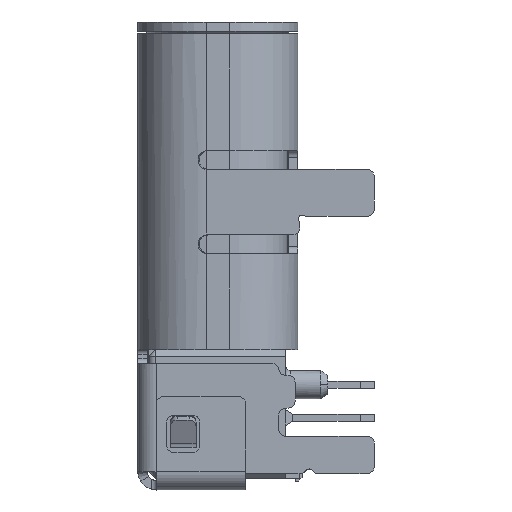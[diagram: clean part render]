
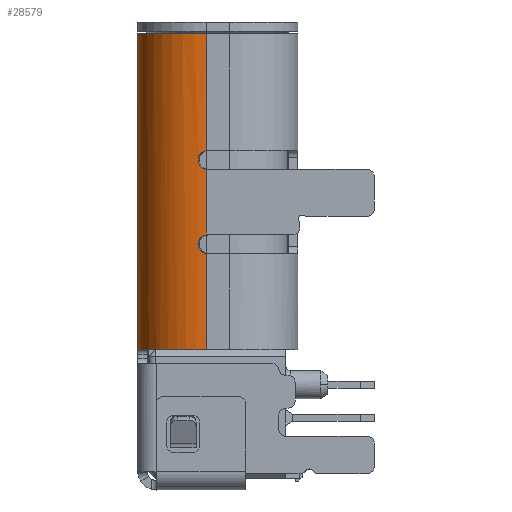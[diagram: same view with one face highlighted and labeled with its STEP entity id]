
A CAD part, left-side view. The second image highlights one B-rep face of the part: STEP entity #28579.
In plain terms, the highlighted cylindrical face has radius 1.46 mm (diameter 2.92 mm), a partial arc.
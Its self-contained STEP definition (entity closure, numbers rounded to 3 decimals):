
#6792=CARTESIAN_POINT('',(-3.14,0.54,2.25));
#6793=DIRECTION('',(0.,0.,1.));
#6794=DIRECTION('',(0.,1.,0.));
#6795=AXIS2_PLACEMENT_3D('',#6792,#6793,#6794);
#6888=CARTESIAN_POINT('',(-3.14,0.54,-4.5));
#6889=DIRECTION('',(0.,0.,-1.));
#6890=DIRECTION('',(-0.673,0.74,0.));
#6891=AXIS2_PLACEMENT_3D('',#6888,#6889,#6890);
#6898=CARTESIAN_POINT('',(-3.14,2.,-4.6));
#6899=CARTESIAN_POINT('',(-3.14,2.,-4.589));
#6900=CARTESIAN_POINT('',(-3.143,2.,
-4.569));
#6901=CARTESIAN_POINT('',(-3.158,2.,
-4.54));
#6902=CARTESIAN_POINT('',(-3.18,2.,
-4.518));
#6903=CARTESIAN_POINT('',(-3.209,1.998,
-4.503));
#6904=CARTESIAN_POINT('',(-3.229,1.997,
-4.5));
#6905=CARTESIAN_POINT('',(-3.24,1.997,-4.5));
#6907=DIRECTION('',(0.,0.,-1.));
#6908=VECTOR('',#6907,6.85);
#6909=CARTESIAN_POINT('',(-3.14,2.,2.25));
#6910=LINE('',#6909,#6908);
#6911=DIRECTION('',(0.,0.,1.));
#6912=VECTOR('',#6911,2.502);
#6913=CARTESIAN_POINT('',(-4.6,0.54,
-0.252));
#6914=LINE('',#6913,#6912);
#6915=CARTESIAN_POINT('',(-4.59,0.714,
-0.45));
#6916=CARTESIAN_POINT('',(-4.59,0.714,
-0.431));
#6917=CARTESIAN_POINT('',(-4.59,0.709,
-0.394));
#6918=CARTESIAN_POINT('',(-4.593,0.684,
-0.34));
#6919=CARTESIAN_POINT('',(-4.596,0.647,
-0.297));
#6920=CARTESIAN_POINT('',(-4.599,0.597,
-0.264));
#6921=CARTESIAN_POINT('',(-4.6,0.56,
-0.254));
#6922=CARTESIAN_POINT('',(-4.6,0.54,
-0.252));
#6924=CARTESIAN_POINT('',(-4.6,0.54,
-0.648));
#6925=CARTESIAN_POINT('',(-4.6,0.559,
-0.646));
#6926=CARTESIAN_POINT('',(-4.599,0.596,
-0.635));
#6927=CARTESIAN_POINT('',(-4.596,0.646,
-0.604));
#6928=CARTESIAN_POINT('',(-4.593,0.684,
-0.561));
#6929=CARTESIAN_POINT('',(-4.59,0.708,
-0.507));
#6930=CARTESIAN_POINT('',(-4.59,0.714,
-0.47));
#6931=CARTESIAN_POINT('',(-4.59,0.714,
-0.45));
#6933=DIRECTION('',(0.,0.,1.));
#6934=VECTOR('',#6933,1.403);
#6935=CARTESIAN_POINT('',(-4.6,0.54,
-2.052));
#6936=LINE('',#6935,#6934);
#6937=DIRECTION('',(0.,0.,1.));
#6938=VECTOR('',#6937,2.052);
#6939=CARTESIAN_POINT('',(-4.6,0.54,-4.5));
#6940=LINE('',#6939,#6938);
#6956=CARTESIAN_POINT('',(-3.14,0.54,-4.5));
#6957=DIRECTION('',(0.,0.,-1.));
#6958=DIRECTION('',(-1.,0.,0.));
#6959=AXIS2_PLACEMENT_3D('',#6956,#6957,#6958);
#10537=CARTESIAN_POINT('',(-3.14,0.54,-4.5));
#10538=DIRECTION('',(0.,0.,-1.));
#10539=DIRECTION('',(-0.74,0.673,0.));
#10540=AXIS2_PLACEMENT_3D('',#10537,#10538,#10539);
#10644=CARTESIAN_POINT('',(-4.6,0.54,
-2.052));
#10645=CARTESIAN_POINT('',(-4.6,0.559,
-2.054));
#10646=CARTESIAN_POINT('',(-4.599,0.596,
-2.065));
#10647=CARTESIAN_POINT('',(-4.596,0.646,
-2.096));
#10648=CARTESIAN_POINT('',(-4.593,0.684,
-2.14));
#10649=CARTESIAN_POINT('',(-4.591,0.708,
-2.192));
#10650=CARTESIAN_POINT('',(-4.59,0.717,
-2.249));
#10651=CARTESIAN_POINT('',(-4.591,0.709,
-2.307));
#10652=CARTESIAN_POINT('',(-4.593,0.685,
-2.36));
#10653=CARTESIAN_POINT('',(-4.596,0.646,
-2.404));
#10654=CARTESIAN_POINT('',(-4.599,0.597,
-2.435));
#10655=CARTESIAN_POINT('',(-4.6,0.559,
-2.446));
#10656=CARTESIAN_POINT('',(-4.6,0.54,
-2.448));
#10681=CARTESIAN_POINT('',(-4.6,0.54,
-2.448));
#10754=CARTESIAN_POINT('',(-4.6,0.54,-0.252));
#16292=CARTESIAN_POINT('',(-4.122,1.62,
-4.5));
#16293=VERTEX_POINT('',#16292);
#16918=CARTESIAN_POINT('',(-4.22,1.522,
-4.5));
#16919=VERTEX_POINT('',#16918);
#16920=CARTESIAN_POINT('',(-3.24,1.997,-4.5));
#16921=VERTEX_POINT('',#16920);
#17463=CARTESIAN_POINT('',(-3.14,2.,2.25));
#17465=VERTEX_POINT('',#17463);
#17496=CARTESIAN_POINT('',(-3.14,2.,-4.6));
#17497=VERTEX_POINT('',#17496);
#18559=CARTESIAN_POINT('',(-4.6,0.54,2.25));
#18560=VERTEX_POINT('',#18559);
#18724=CARTESIAN_POINT('',(-4.6,0.54,-4.5));
#18725=VERTEX_POINT('',#18724);
#18734=VERTEX_POINT('',#10681);
#18740=VERTEX_POINT('',#10754);
#18741=VERTEX_POINT('',#6915);
#20287=VERTEX_POINT('',#10644);
#20288=CARTESIAN_POINT('',(-4.6,0.54,
-0.648));
#20289=VERTEX_POINT('',#20288);
#28550=CARTESIAN_POINT('',(-3.14,0.54,2.25));
#28551=DIRECTION('',(0.,0.,1.));
#28552=DIRECTION('',(0.,1.,0.));
#28553=AXIS2_PLACEMENT_3D('',#28550,#28551,#28552);
#28554=CYLINDRICAL_SURFACE('',#28553,1.46);
#28556=ORIENTED_EDGE('',*,*,#28555,.T.);
#28558=ORIENTED_EDGE('',*,*,#28557,.T.);
#28559=ORIENTED_EDGE('',*,*,#28540,.T.);
#28561=ORIENTED_EDGE('',*,*,#28560,.F.);
#28563=ORIENTED_EDGE('',*,*,#28562,.F.);
#28564=ORIENTED_EDGE('',*,*,#28467,.T.);
#28566=ORIENTED_EDGE('',*,*,#28565,.F.);
#28568=ORIENTED_EDGE('',*,*,#28567,.F.);
#28570=ORIENTED_EDGE('',*,*,#28569,.F.);
#28572=ORIENTED_EDGE('',*,*,#28571,.F.);
#28574=ORIENTED_EDGE('',*,*,#28573,.T.);
#28576=ORIENTED_EDGE('',*,*,#28575,.F.);
#28577=EDGE_LOOP('',(#28556,#28558,#28559,#28561,#28563,#28564,#28566,#28568,
#28570,#28572,#28574,#28576));
#28578=FACE_OUTER_BOUND('',#28577,.F.);
#6796=CIRCLE('',#6795,1.46);
#6892=CIRCLE('',#6891,1.46);
#6906=B_SPLINE_CURVE_WITH_KNOTS('',3,(#6898,#6899,#6900,#6901,#6902,#6903,#6904,
#6905),.UNSPECIFIED.,.F.,.F.,(4,1,1,1,1,4),(0.,0.2,0.4,0.6,0.8,1.),
.UNSPECIFIED.);
#6923=B_SPLINE_CURVE_WITH_KNOTS('',3,(#6915,#6916,#6917,#6918,#6919,#6920,#6921,
#6922),.UNSPECIFIED.,.F.,.F.,(4,1,1,1,1,4),(0.,0.2,0.4,0.6,0.8,1.),
.UNSPECIFIED.);
#6932=B_SPLINE_CURVE_WITH_KNOTS('',3,(#6924,#6925,#6926,#6927,#6928,#6929,#6930,
#6931),.UNSPECIFIED.,.F.,.F.,(4,1,1,1,1,4),(0.,0.2,0.4,0.6,0.8,1.),
.UNSPECIFIED.);
#6960=CIRCLE('',#6959,1.46);
#10541=CIRCLE('',#10540,1.46);
#10657=B_SPLINE_CURVE_WITH_KNOTS('',3,(#10644,#10645,#10646,#10647,#10648,
#10649,#10650,#10651,#10652,#10653,#10654,#10655,#10656),.UNSPECIFIED.,.F.,.F.,(
4,1,1,1,1,1,1,1,1,1,4),(0.,0.1,0.2,0.3,0.4,0.5,0.6,0.7,0.8,
0.9,1.),.UNSPECIFIED.);
#28467=EDGE_CURVE('',#17465,#18560,#6796,.T.);
#28540=EDGE_CURVE('',#16293,#16921,#6892,.T.);
#28555=EDGE_CURVE('',#18725,#16919,#6960,.T.);
#28557=EDGE_CURVE('',#16919,#16293,#10541,.T.);
#28560=EDGE_CURVE('',#17497,#16921,#6906,.T.);
#28562=EDGE_CURVE('',#17465,#17497,#6910,.T.);
#28565=EDGE_CURVE('',#18740,#18560,#6914,.T.);
#28567=EDGE_CURVE('',#18741,#18740,#6923,.T.);
#28569=EDGE_CURVE('',#20289,#18741,#6932,.T.);
#28571=EDGE_CURVE('',#20287,#20289,#6936,.T.);
#28573=EDGE_CURVE('',#20287,#18734,#10657,.T.);
#28575=EDGE_CURVE('',#18725,#18734,#6940,.T.);
#28579=ADVANCED_FACE('',(#28578),#28554,.T.);
